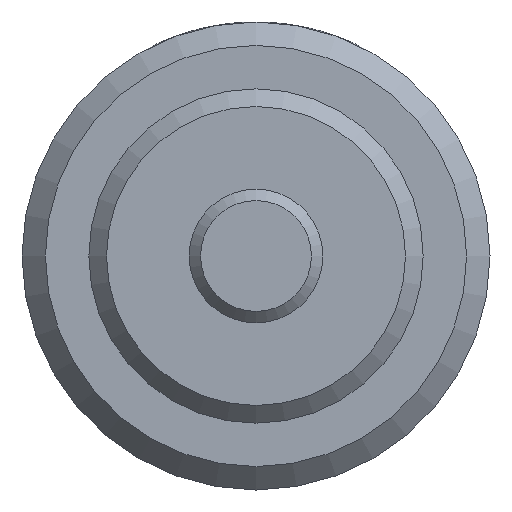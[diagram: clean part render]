
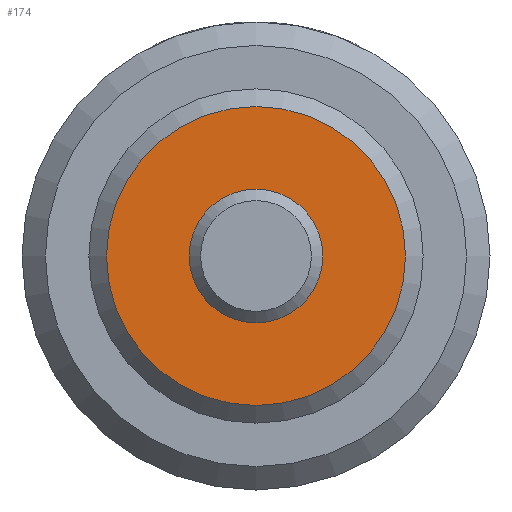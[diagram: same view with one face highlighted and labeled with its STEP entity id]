
A CAD part, left-side view. The second image highlights one B-rep face of the part: STEP entity #174.
In plain terms, the highlighted planar face has unit normal (-1, 0, 0).
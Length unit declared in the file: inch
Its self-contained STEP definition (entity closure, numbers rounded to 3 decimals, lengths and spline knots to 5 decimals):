
#174 = ADVANCED_FACE( '', ( #353, #354 ), #355, .F. );
#353 = FACE_OUTER_BOUND( '', #533, .T. );
#354 = FACE_BOUND( '', #534, .T. );
#355 = PLANE( '', #535 );
#533 = EDGE_LOOP( '', ( #797 ) );
#534 = EDGE_LOOP( '', ( #798 ) );
#535 = AXIS2_PLACEMENT_3D( '', #799, #800, #801 );
#797 = ORIENTED_EDGE( '', *, *, #970, .F. );
#798 = ORIENTED_EDGE( '', *, *, #896, .T. );
#799 = CARTESIAN_POINT( '', ( 0., 0., 0. ) );
#800 = DIRECTION( '', ( 1., 0., 0. ) );
#801 = DIRECTION( '', ( 0., 0., -1. ) );
#896 = EDGE_CURVE( '', #1014, #1014, #1015, .T. );
#970 = EDGE_CURVE( '', #1124, #1124, #1125, .T. );
#1014 = VERTEX_POINT( '', #1240 );
#1015 = CIRCLE( '', #1241, 0.125 );
#1124 = VERTEX_POINT( '', #1446 );
#1125 = CIRCLE( '', #1447, 0.27945 );
#1240 = CARTESIAN_POINT( '', ( 0., 0., -0.125 ) );
#1241 = AXIS2_PLACEMENT_3D( '', #1480, #1481, #1482 );
#1446 = CARTESIAN_POINT( '', ( 0., 0., -0.27945 ) );
#1447 = AXIS2_PLACEMENT_3D( '', #1590, #1591, #1592 );
#1480 = CARTESIAN_POINT( '', ( 0., 0., 0. ) );
#1481 = DIRECTION( '', ( 1., 0., 0. ) );
#1482 = DIRECTION( '', ( 0., 0., -1. ) );
#1590 = CARTESIAN_POINT( '', ( 0., 0., 0. ) );
#1591 = DIRECTION( '', ( 1., 0., 0. ) );
#1592 = DIRECTION( '', ( 0., 0., -1. ) );
